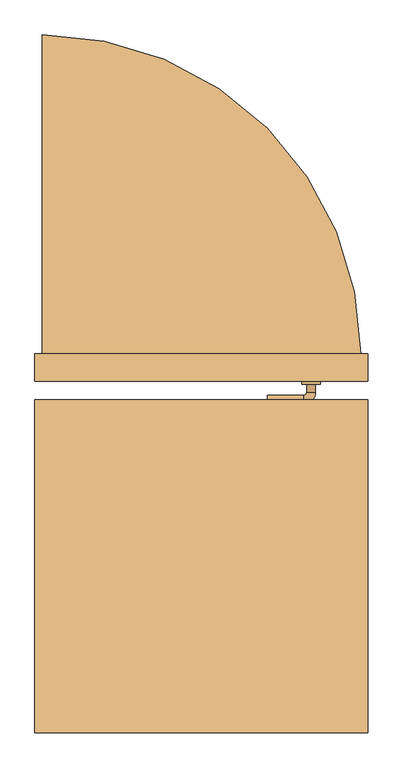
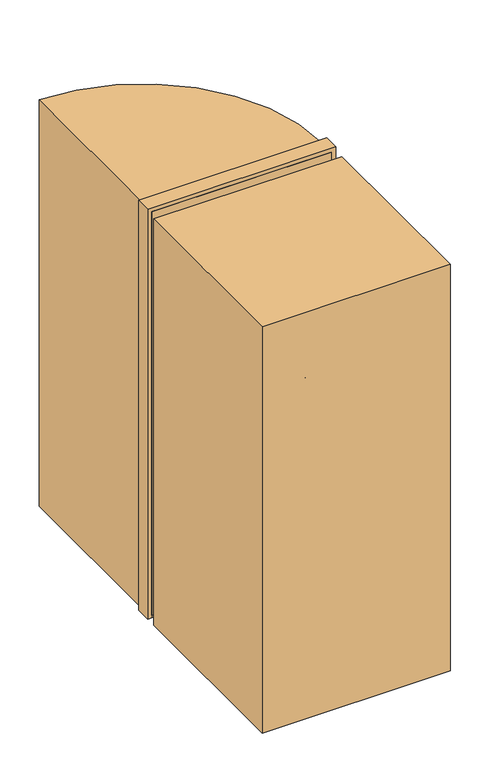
"""IFC4 building model written with IfcOpenShell, lengths in millimetres: door geometry, Дверь_Противопожарная_Металлическая_Однопольная_Глухая : 910 х 2100(h)_Пр_EI30 2."""

import ifcopenshell
import ifcopenshell.guid

model = None  # the IFC model being written
_history = None  # IfcOwnerHistory: only IFC2X3 demands one
_inside = {}  # id of a spatial element -> (the spatial element, [elements in it])
_under = {}  # id of a project, library or spatial element -> (it, [spatial elements below it])
_declared = {}  # id of a project -> (the project, [libraries it declares])
_typed = {}  # id of a type object -> (the type object, [elements of that type])
_made_of = {}  # id of a material, layer set ... -> (it, [elements and type objects made of it])


def new_model(schema):
    """Start an empty IFC model of exactly this schema.

    Asked for "IFC4X3", IfcOpenShell would pick the latest addendum, in which some entities
    have other attributes; the version numbers below select the first issue.
    IFC2X3 requires an IfcOwnerHistory on every rooted entity: one is made here for all.
    """
    global model, _history
    if schema == "IFC4X3":
        model = ifcopenshell.file(schema_version=(4, 3, 0, 0))
    else:
        model = ifcopenshell.file(schema=schema)
    _inside.clear()
    _under.clear()
    _declared.clear()
    _typed.clear()
    _made_of.clear()
    _history = None
    if model.schema == "IFC2X3":
        org = make("IfcOrganization", Name="unknown")
        user = make(
            "IfcPersonAndOrganization",
            ThePerson=make("IfcPerson", FamilyName="unknown"),
            TheOrganization=org,
        )
        app = make(
            "IfcApplication",
            ApplicationDeveloper=org,
            Version="unknown",
            ApplicationFullName="unknown",
            ApplicationIdentifier="unknown",
        )
        _history = make(
            "IfcOwnerHistory",
            OwningUser=user,
            OwningApplication=app,
            ChangeAction="ADDED",
            CreationDate=0,
        )
    return model


def make(cls, **values):
    """One entity of the class cls with the attributes given. An attribute that is None is left unset."""
    return model.create_entity(
        cls, **{name: value for name, value in values.items() if value is not None}
    )


def rooted(cls, **values):
    """An entity with a GlobalId (a new one), such as an element, a storey or a relation."""
    return make(cls, GlobalId=ifcopenshell.guid.new(), OwnerHistory=_history, **values)


def si_unit(unit_type, name, prefix=None):
    """IfcSIUnit, for example si_unit("LENGTHUNIT", "METRE", prefix="MILLI")."""
    return make("IfcSIUnit", UnitType=unit_type, Prefix=prefix, Name=name)


def assignment(units):
    """IfcUnitAssignment: the units of a project."""
    return None if units is None else make("IfcUnitAssignment", Units=units)


def point(xyz):
    """IfcCartesianPoint."""
    return None if xyz is None else make("IfcCartesianPoint", Coordinates=xyz)


def direction(xyz):
    """IfcDirection."""
    return None if xyz is None else make("IfcDirection", DirectionRatios=xyz)


def frame(location, z_axis=None, x_axis=None):
    """IfcAxis2Placement3D, a coordinate frame: its origin and axes. An axis left out is left unset."""
    return make(
        "IfcAxis2Placement3D",
        Location=point(location),
        Axis=direction(z_axis),
        RefDirection=direction(x_axis),
    )


def frame_2d(location, x_axis=None):
    """IfcAxis2Placement2D, a coordinate frame in the plane: its origin and x axis."""
    return make(
        "IfcAxis2Placement2D", Location=point(location), RefDirection=direction(x_axis)
    )


def origin():
    """The frame at (0, 0, 0) with its axes left unset."""
    return frame((0.0, 0.0, 0.0))


def origin_with_axes():
    """The frame at (0, 0, 0) with the z axis (0, 0, 1) and the x axis (1, 0, 0) written out."""
    return frame((0.0, 0.0, 0.0), z_axis=(0.0, 0.0, 1.0), x_axis=(1.0, 0.0, 0.0))


def place(relative_to, where):
    """IfcLocalPlacement: puts the frame where relative to a parent placement (None: the world)."""
    return make(
        "IfcLocalPlacement", PlacementRelTo=relative_to, RelativePlacement=where
    )


def context(
    kind, dimensions, precision=None, world=None, true_north=None, identifier=None
):
    """IfcGeometricRepresentationContext, for example the 3D "Model" context."""
    return make(
        "IfcGeometricRepresentationContext",
        ContextIdentifier=identifier,
        ContextType=kind,
        CoordinateSpaceDimension=dimensions,
        Precision=precision,
        WorldCoordinateSystem=world,
        TrueNorth=true_north,
    )


def project(units=None, contexts=None):
    """IfcProject with its units and contexts."""
    return rooted(
        "IfcProject",
        Name="project",
        RepresentationContexts=contexts,
        UnitsInContext=assignment(units),
    )


def spatial(cls, under=None, at=None, **own):
    """A site, building, storey or space (cls), placed at a placement, below another one or the project."""
    s = rooted(cls, ObjectPlacement=at, **own)
    if under is not None:
        _under.setdefault(under.id(), (under, []))[1].append(s)
    return s


def polyline(points):
    """IfcPolyline through the points."""
    return make("IfcPolyline", Points=[point(p) for p in points])


def circle_curve(where, radius):
    """IfcCircle in the frame where."""
    return make("IfcCircle", Position=where, Radius=radius)


def ellipse_curve(where, semi_axis1, semi_axis2):
    """IfcEllipse in the frame where."""
    return make(
        "IfcEllipse", Position=where, SemiAxis1=semi_axis1, SemiAxis2=semi_axis2
    )


def trimmed(basis, trim1, trim2, sense, master):
    """IfcTrimmedCurve: the piece of a basis curve between two trims."""
    return make(
        "IfcTrimmedCurve",
        BasisCurve=basis,
        Trim1=trim1,
        Trim2=trim2,
        SenseAgreement=sense,
        MasterRepresentation=master,
    )


def segment(curve, same_sense, transition):
    """IfcCompositeCurveSegment."""
    return make(
        "IfcCompositeCurveSegment",
        Transition=transition,
        SameSense=same_sense,
        ParentCurve=curve,
    )


def composite_curve(segments, self_intersect=None):
    """IfcCompositeCurve: segments joined end to end."""
    return make("IfcCompositeCurve", Segments=segments, SelfIntersect=self_intersect)


def outline(outer, holes=None, kind="AREA"):
    """IfcArbitraryClosedProfileDef: a profile drawn as a closed curve; with holes, ...WithVoids."""
    if holes is None:
        return make("IfcArbitraryClosedProfileDef", ProfileType=kind, OuterCurve=outer)
    return make(
        "IfcArbitraryProfileDefWithVoids",
        ProfileType=kind,
        OuterCurve=outer,
        InnerCurves=holes,
    )


def extrude(swept, where, along, depth):
    """IfcExtrudedAreaSolid: the profile swept, set in the frame where, extruded along a direction by depth."""
    return make(
        "IfcExtrudedAreaSolid",
        SweptArea=swept,
        Position=where,
        ExtrudedDirection=direction(along),
        Depth=depth,
    )


def shape(context_of_items, identifier, shape_type, items):
    """IfcShapeRepresentation: the items that make up one representation, for example the "Body"."""
    return make(
        "IfcShapeRepresentation",
        ContextOfItems=context_of_items,
        RepresentationIdentifier=identifier,
        RepresentationType=shape_type,
        Items=items,
    )


def source(mapping_origin, context_of_items, identifier, shape_type, items):
    """IfcRepresentationMap: a shape defined once, which mapped items show again and again."""
    return make(
        "IfcRepresentationMap",
        MappingOrigin=mapping_origin,
        MappedRepresentation=shape(context_of_items, identifier, shape_type, items),
    )


def transform(
    local_origin,
    x_axis=None,
    y_axis=None,
    z_axis=None,
    scale=None,
    scale2=None,
    scale3=None,
    uniform=True,
):
    """IfcCartesianTransformationOperator3D, or its non-uniform kind. x_axis, y_axis, z_axis: its Axis1, 2, 3."""
    if uniform:
        return make(
            "IfcCartesianTransformationOperator3D",
            Axis1=direction(x_axis),
            Axis2=direction(y_axis),
            LocalOrigin=point(local_origin),
            Scale=scale,
            Axis3=direction(z_axis),
        )
    return make(
        "IfcCartesianTransformationOperator3DnonUniform",
        Axis1=direction(x_axis),
        Axis2=direction(y_axis),
        LocalOrigin=point(local_origin),
        Scale=scale,
        Axis3=direction(z_axis),
        Scale2=scale2,
        Scale3=scale3,
    )


def mapped(mapping_source, mapping_target):
    """IfcMappedItem: shows the shape of a source again, moved by a transform."""
    return make(
        "IfcMappedItem", MappingSource=mapping_source, MappingTarget=mapping_target
    )


def made_of(thing, what):
    """Note that an element or type object is made of a material, layer set ...; save() writes the relation."""
    if what is not None:
        _made_of.setdefault(what.id(), (what, []))[1].append(thing)
    return thing


def element(
    cls,
    number,
    at=None,
    inside=None,
    cuts=None,
    type_object=None,
    material=None,
    context=None,
    identifier="Body",
    shape_type=None,
    held_by="IfcProductDefinitionShape",
    body=None,
    shapes=None,
    **own,
):
    """One element of the class cls, such as IfcWall. Its Tag is "e" and its number.

    at: its placement. inside: the storey or other place that contains it. cuts: it is an
    opening in that element (IfcRelVoidsElement). A single representation is given by context,
    identifier, shape_type and body (its items); several are given by shapes. held_by: the class
    of the entity that holds the representations. save() writes the other relations.
    """
    e = rooted(cls, Tag="e%d" % number, ObjectPlacement=at, **own)
    if body is not None:
        shapes = [shape(context, identifier, shape_type, body)]
    if shapes is not None:
        e.Representation = make(held_by, Representations=shapes)
    if inside is not None:
        _inside.setdefault(inside.id(), (inside, []))[1].append(e)
    if cuts is not None:
        rooted(
            "IfcRelVoidsElement", RelatingBuildingElement=cuts, RelatedOpeningElement=e
        )
    if type_object is not None:
        _typed.setdefault(type_object.id(), (type_object, []))[1].append(e)
    return made_of(e, material)


def aggregate(whole, parts):
    """IfcRelAggregates: a whole, such as a stair, and the parts it consists of."""
    return rooted("IfcRelAggregates", RelatingObject=whole, RelatedObjects=parts)


def save(model, path):
    """Write the relations noted so far, then the file.

    IfcRelAggregates (storeys below a building ...), IfcRelContainedInSpatialStructure (elements
    in a storey), IfcRelDefinesByType, IfcRelAssociatesMaterial and IfcRelDeclares: one each for
    every whole, place, type object, material and project.
    """
    for whole, parts in _under.values():
        aggregate(whole, parts)
    for where, things in _inside.values():
        rooted(
            "IfcRelContainedInSpatialStructure",
            RelatedElements=things,
            RelatingStructure=where,
        )
    for kind, things in _typed.values():
        rooted("IfcRelDefinesByType", RelatedObjects=things, RelatingType=kind)
    for what, things in _made_of.values():
        rooted("IfcRelAssociatesMaterial", RelatedObjects=things, RelatingMaterial=what)
    for by, libraries in _declared.values():
        rooted("IfcRelDeclares", RelatingContext=by, RelatedDefinitions=libraries)
    model.write(path)


def plane_surface(at):
    """IfcPlane: the flat surface through the origin of the frame at, square to its z axis."""
    return make("IfcPlane", Position=at)


def cylinder_surface(at, radius):
    """IfcCylindricalSurface: all points at the distance radius from the z axis of the frame at."""
    return make("IfcCylindricalSurface", Position=at, Radius=radius)


def revolved_surface(curve, axis_point, axis_direction):
    """IfcSurfaceOfRevolution: the curve turned about the line through axis_point along axis_direction."""
    return make(
        "IfcSurfaceOfRevolution",
        SweptCurve=make("IfcArbitraryOpenProfileDef", ProfileType="CURVE", Curve=curve),
        AxisPosition=make("IfcAxis1Placement", Location=point(axis_point), Axis=direction(axis_direction)),
    )


def advanced_brep(points, edges, surfaces, faces):
    """IfcAdvancedBrep: a solid bounded by faces that lie on surfaces and meet in shared edges.

    An edge is (start, end): straight between two places in points (the first is 0);
    or (start, end, curve); or (start, end, curve, False) where it runs against its curve.
    A face is (place in surfaces, loops), or (place, loops, False) where it looks against
    its surface's normal. A loop lists edges by number (the first is 1), with a minus sign
    where the edge is run from its end to its start. The first loop is the outer one.
    """
    corners = [point(p) for p in points]
    vertices = [make("IfcVertexPoint", VertexGeometry=c) for c in corners]
    made = []
    for start, end, *more in edges:
        made.append(
            make(
                "IfcEdgeCurve",
                EdgeStart=vertices[start],
                EdgeEnd=vertices[end],
                EdgeGeometry=more[0] if more else make("IfcPolyline", Points=[corners[start], corners[end]]),
                SameSense=more[1] if len(more) > 1 else True,
            )
        )
    hull = []
    for where, loops, *sense in faces:
        bounds = []
        for j, loop in enumerate(loops):
            ring = [make("IfcOrientedEdge", EdgeElement=made[abs(k) - 1], Orientation=k > 0) for k in loop]
            bounds.append(
                make(
                    "IfcFaceOuterBound" if j == 0 else "IfcFaceBound",
                    Bound=make("IfcEdgeLoop", EdgeList=ring),
                    Orientation=True,
                )
            )
        hull.append(make("IfcAdvancedFace", Bounds=bounds, FaceSurface=surfaces[where], SameSense=sense[0] if sense else True))
    return make("IfcAdvancedBrep", Outer=make("IfcClosedShell", CfsFaces=hull))


def door_26b594f7(model_context):
    return source(origin(), model_context, "Body", "SolidModel", [
        extrude(outline(composite_curve([segment(trimmed(circle_curve(frame_2d((-435.0, 62.5)), 870.0), [point((-435.0, 932.5))], [point((435.0, 62.5))], False, "CARTESIAN"), True, "CONTINUOUS"), segment(polyline([(435.0, 62.5), (-435.0, 62.5), (-435.0, 932.5)]), True, "CONTINUOUS")], self_intersect=False)), origin_with_axes(), (0.0, 0.0, 1.0), 2080.0),
        extrude(outline(polyline([(-455.0, -972.5), (-455.0, -62.5), (455.0, -62.5), (455.0, -972.5), (-455.0, -972.5)])), origin_with_axes(), (0.0, 0.0, 1.0), 2080.0),
        advanced_brep(
        [(180.0, 124.5, 1000.0), (180.0, 100.5, 1000.0), (280.0, 100.5, 1000.0), (280.0, 124.5, 1000.0), (288.0, 92.5, 1000.0), (312.0, 92.5, 1000.0), (312.0, -42.5, 1000.0), (312.0, -20.5, 1000.0), (288.0, -20.5, 1000.0), (288.0, -42.5, 1000.0), (288.0, 70.5, 1000.0), (312.0, 70.5, 1000.0), (280.0, -50.5, 1000.0), (280.0, -74.5, 1000.0), (180.0, -74.5, 1000.0), (180.0, -50.5, 1000.0), (325.0, 70.5, 1000.0), (275.0, 70.5, 1000.0), (325.0, -20.5, 1000.0), (275.0, -20.5, 1000.0)],
        [
            (0, 1, circle_curve(frame((180.0, 112.5, 1000.0), z_axis=(-1.0, 0.0, 0.0), x_axis=(0.0, -1.0, 0.0)), 12.0)),
            (1, 0, circle_curve(frame((180.0, 112.5, 1000.0), z_axis=(-1.0, 0.0, 0.0), x_axis=(0.0, -1.0, 0.0)), 12.0)),
            (1, 2),
            (2, 3, circle_curve(frame((280.0, 112.5, 1000.0), z_axis=(-1.0, 0.0, 0.0), x_axis=(0.0, -1.0, 0.0)), 12.0)),
            (3, 0),
            (3, 2, circle_curve(frame((280.0, 112.5, 1000.0), z_axis=(-1.0, 0.0, 0.0), x_axis=(0.0, -1.0, 0.0)), 12.0)),
            (2, 4, circle_curve(frame((280.0, 92.5, 1000.0), z_axis=(0.0, 0.0, -1.0), x_axis=(0.0, 1.0, 0.0)), 8.0)),
            (4, 5, circle_curve(frame((300.0, 92.5, 1000.0), z_axis=(0.0, 1.0, 0.0), x_axis=(-1.0, 0.0, 0.0)), 12.0)),
            (5, 3, circle_curve(frame((280.0, 92.5, 1000.0), z_axis=(0.0, 0.0, 1.0), x_axis=(0.0, 1.0, 0.0)), 32.0)),
            (5, 4, circle_curve(frame((300.0, 92.5, 1000.0), z_axis=(0.0, 1.0, 0.0), x_axis=(-1.0, 0.0, 0.0)), 12.0)),
            (6, 7),
            (7, 8, circle_curve(frame((300.0, -20.5, 1000.0), z_axis=(0.0, -1.0, 0.0), x_axis=(-1.0, 0.0, 0.0)), 12.0)),
            (8, 9),
            (9, 6, circle_curve(frame((300.0, -42.5, 1000.0), z_axis=(0.0, 1.0, 0.0), x_axis=(-1.0, 0.0, 0.0)), 12.0)),
            (4, 10),
            (10, 11, circle_curve(frame((300.0, 70.5, 1000.0), z_axis=(0.0, 1.0, 0.0), x_axis=(-1.0, 0.0, 0.0)), 12.0)),
            (11, 5),
            (11, 10, circle_curve(frame((300.0, 70.5, 1000.0), z_axis=(0.0, 1.0, 0.0), x_axis=(-1.0, 0.0, 0.0)), 12.0)),
            (8, 7, circle_curve(frame((300.0, -20.5, 1000.0), z_axis=(0.0, -1.0, 0.0), x_axis=(-1.0, 0.0, 0.0)), 12.0)),
            (6, 9, circle_curve(frame((300.0, -42.5, 1000.0), z_axis=(0.0, 1.0, 0.0), x_axis=(-1.0, 0.0, 0.0)), 12.0)),
            (9, 12, circle_curve(frame((280.0, -42.5, 1000.0), z_axis=(0.0, 0.0, -1.0), x_axis=(1.0, 0.0, 0.0)), 8.0)),
            (12, 13, circle_curve(frame((280.0, -62.5, 1000.0), z_axis=(1.0, 0.0, 0.0), x_axis=(0.0, 1.0, 0.0)), 12.0)),
            (13, 6, circle_curve(frame((280.0, -42.5, 1000.0), z_axis=(0.0, 0.0, 1.0), x_axis=(1.0, 0.0, 0.0)), 32.0)),
            (13, 12, circle_curve(frame((280.0, -62.5, 1000.0), z_axis=(1.0, 0.0, 0.0), x_axis=(0.0, 1.0, 0.0)), 12.0)),
            (14, 15, circle_curve(frame((180.0, -62.5, 1000.0), z_axis=(-1.0, 0.0, 0.0), x_axis=(0.0, 1.0, 0.0)), 12.0)),
            (15, 14, circle_curve(frame((180.0, -62.5, 1000.0), z_axis=(-1.0, 0.0, 0.0), x_axis=(0.0, 1.0, 0.0)), 12.0)),
            (12, 15),
            (14, 13),
            (16, 17, circle_curve(frame((300.0, 70.5, 1000.0), z_axis=(0.0, 1.0, 0.0), x_axis=(-1.0, 0.0, 0.0)), 25.0)),
            (17, 16, circle_curve(frame((300.0, 70.5, 1000.0), z_axis=(0.0, 1.0, 0.0), x_axis=(-1.0, 0.0, 0.0)), 25.0)),
            (18, 19, circle_curve(frame((300.0, -20.5, 1000.0), z_axis=(0.0, -1.0, 0.0), x_axis=(-1.0, 0.0, 0.0)), 25.0)),
            (19, 18, circle_curve(frame((300.0, -20.5, 1000.0), z_axis=(0.0, -1.0, 0.0), x_axis=(-1.0, 0.0, 0.0)), 25.0)),
            (16, 18),
            (19, 17),
        ],
        [
            plane_surface(frame((180.0, 112.5, 1000.0), z_axis=(-1.0, 0.0, 0.0), x_axis=(0.0, 0.0, 1.0))),
            cylinder_surface(frame((180.0, 112.5, 1000.0), z_axis=(-1.0, 0.0, 0.0), x_axis=(0.0, -1.0, 0.0)), 12.0),
            revolved_surface(trimmed(ellipse_curve(frame((280.0, 112.5, 1000.0), z_axis=(1.0, 0.0, 0.0), x_axis=(0.0, -1.0, 0.0)), 12.0, 12.0), [point((280.0, 124.5, 1000.0))], [point((280.0, 100.5, 1000.0))], True, "CARTESIAN"), (280.0, 92.5, 1000.0), (0.0, 0.0, 1.0)),
            revolved_surface(trimmed(ellipse_curve(frame((280.0, 112.5, 1000.0), z_axis=(1.0, 0.0, 0.0), x_axis=(0.0, -1.0, 0.0)), 12.0, 12.0), [point((280.0, 100.5, 1000.0))], [point((280.0, 124.5, 1000.0))], True, "CARTESIAN"), (280.0, 92.5, 1000.0), (0.0, 0.0, 1.0)),
            cylinder_surface(frame((300.0, 92.5, 1000.0), z_axis=(0.0, 1.0, 0.0), x_axis=(-1.0, 0.0, 0.0)), 12.0),
            revolved_surface(trimmed(ellipse_curve(frame((300.0, -42.5, 1000.0), z_axis=(0.0, -1.0, 0.0), x_axis=(-1.0, 0.0, 0.0)), 12.0, 12.0), [point((312.0, -42.5, 1000.0))], [point((288.0, -42.5, 1000.0))], True, "CARTESIAN"), (280.0, -42.5, 1000.0), (0.0, 0.0, 1.0)),
            revolved_surface(trimmed(ellipse_curve(frame((300.0, -42.5, 1000.0), z_axis=(0.0, -1.0, 0.0), x_axis=(-1.0, 0.0, 0.0)), 12.0, 12.0), [point((288.0, -42.5, 1000.0))], [point((312.0, -42.5, 1000.0))], True, "CARTESIAN"), (280.0, -42.5, 1000.0), (0.0, 0.0, 1.0)),
            plane_surface(frame((180.0, -62.5, 1000.0), z_axis=(-1.0, 0.0, 0.0), x_axis=(0.0, 0.0, 1.0))),
            cylinder_surface(frame((280.0, -62.5, 1000.0), z_axis=(1.0, 0.0, 0.0), x_axis=(0.0, 1.0, 0.0)), 12.0),
            plane_surface(frame((275.0, 70.5, 1000.0), z_axis=(0.0, 1.0, 0.0), x_axis=(0.0, 0.0, -1.0))),
            plane_surface(frame((275.0, -20.5, 1000.0), z_axis=(0.0, -1.0, 0.0), x_axis=(0.0, 0.0, 1.0))),
            cylinder_surface(frame((300.0, 70.5, 1000.0), z_axis=(0.0, -1.0, 0.0), x_axis=(-1.0, 0.0, 0.0)), 25.0),
        ],
        [
            (0, [[1, 2]]),
            (1, [[3, 4, 5, -2]]),
            (1, [[-5, 6, -3, -1]]),
            (2, [[7, 8, 9, -4]]),
            (3, [[-9, 10, -7, -6]]),
            (4, [[11, 12, 13, 14]]),
            (4, [[15, 16, 17, -8]]),
            (4, [[-17, 18, -15, -10]]),
            (4, [[-13, 19, -11, 20]]),
            (5, [[21, 22, 23, -14]]),
            (6, [[-23, 24, -21, -20]]),
            (7, [[25, 26]]),
            (8, [[27, -25, 28, -22]]),
            (8, [[-28, -26, -27, -24]]),
            (9, [[29, 30], [-18, -16]]),
            (10, [[31, 32], [-19, -12]]),
            (11, [[33, -32, 34, -29]]),
            (11, [[-34, -31, -33, -30]]),
        ],
    ),
        extrude(outline(composite_curve([segment(trimmed(circle_curve(frame_2d((900.0, 300.0)), 25.0), [point((900.0, 325.0))], [point((900.0, 275.0))], False, "CARTESIAN"), True, "CONTINUOUS"), segment(trimmed(circle_curve(frame_2d((900.0, 300.0)), 25.0), [point((900.0, 275.0))], [point((900.0, 325.0))], False, "CARTESIAN"), True, "CONTINUOUS")], self_intersect=False)), frame((0.0, -20.5, 0.0), z_axis=(0.0, 1.0, 0.0), x_axis=(0.0, 0.0, 1.0)), (0.0, 0.0, 1.0), 91.0),
        extrude(outline(polyline([(15.0, -435.0), (15.0, -360.0), (2005.0, -360.0), (2005.0, 360.0), (15.0, 360.0), (15.0, 435.0), (2080.0, 435.0), (2080.0, -435.0), (15.0, -435.0)])), frame((0.0, -12.5, 0.0), z_axis=(0.0, 1.0, 0.0), x_axis=(0.0, 0.0, 1.0)), (0.0, 0.0, 1.0), 75.0),
        extrude(outline(polyline([(0.0, 455.0), (2100.0, 455.0), (2100.0, -455.0), (0.0, -455.0), (0.0, -435.0), (2080.0, -435.0), (2080.0, 435.0), (0.0, 435.0), (0.0, 455.0)])), frame((0.0, -12.5, 0.0), z_axis=(0.0, 1.0, 0.0), x_axis=(0.0, 0.0, 1.0)), (0.0, 0.0, 1.0), 75.0),
        extrude(outline(polyline([(435.0, 62.5), (435.0, -12.5), (-435.0, -12.5), (-435.0, 62.5), (435.0, 62.5)])), origin_with_axes(), (0.0, 0.0, 1.0), 15.0),
        extrude(outline(polyline([(360.0, 62.5), (360.0, -12.5), (-360.0, -12.5), (-360.0, 62.5), (360.0, 62.5)])), frame((0.0, 0.0, 15.0), z_axis=(0.0, 0.0, 1.0), x_axis=(1.0, 0.0, 0.0)), (0.0, 0.0, 1.0), 1990.0),
    ])


if __name__ == "__main__":
    model = new_model("IFC4")
    model_context = context("Model", 3, world=origin())
    ifc_project = project(units=[si_unit("LENGTHUNIT", "METRE", prefix="MILLI")], contexts=[model_context])
    site = spatial("IfcSite", under=ifc_project)
    building = spatial("IfcBuilding", under=site)
    placement = place(None, origin())
    door_shape = door_26b594f7(model_context)
    element("IfcDoor", 1, ObjectType="Дверь_Противопожарная_Металлическая_Однопольная_Глухая : 910 х 2100(h)_Пр_EI30 2", at=placement, inside=building, context=model_context, shape_type="MappedRepresentation", body=[
        mapped(door_shape, transform((0.0, 0.0, 0.0), x_axis=(1.0, 0.0, 0.0), y_axis=(0.0, 1.0, 0.0), z_axis=(0.0, 0.0, 1.0))),
    ])
    save(model, "model.ifc")
